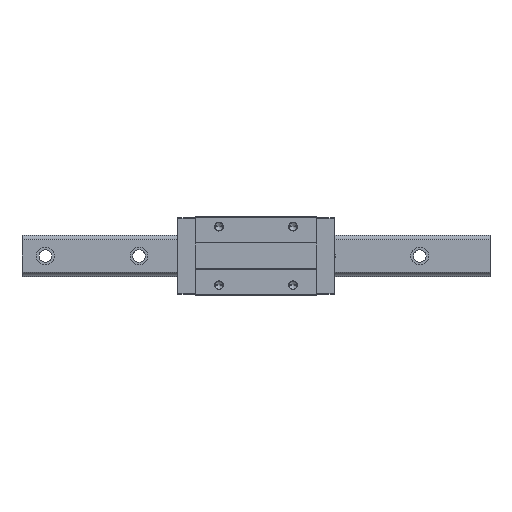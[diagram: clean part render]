
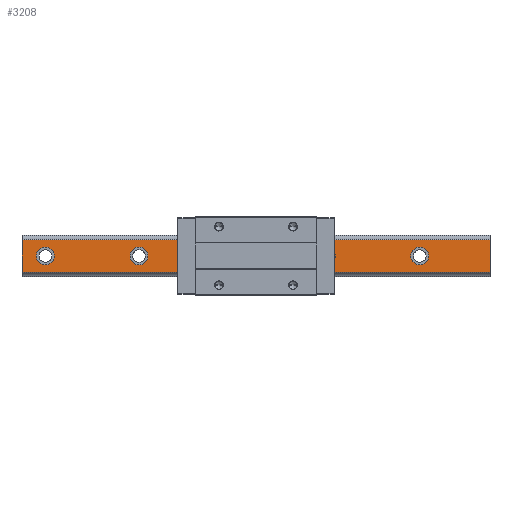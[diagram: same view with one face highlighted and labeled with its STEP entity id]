
A CAD part, top view. The second image highlights one B-rep face of the part: STEP entity #3208.
In plain terms, the highlighted planar face has unit normal (0, 0, 1).
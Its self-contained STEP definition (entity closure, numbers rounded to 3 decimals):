
#16 = EDGE_LOOP ( 'NONE', ( #3532, #728 ) ) ;
#84 = DIRECTION ( 'NONE',  ( 0., 0., 1. ) ) ;
#162 = EDGE_CURVE ( 'NONE', #3328, #2018, #4299, .T. ) ;
#231 = ORIENTED_EDGE ( 'NONE', *, *, #4105, .F. ) ;
#238 = FACE_BOUND ( 'NONE', #16, .T. ) ;
#277 = VERTEX_POINT ( 'NONE', #2434 ) ;
#300 = EDGE_LOOP ( 'NONE', ( #1199, #2833 ) ) ;
#338 = LINE ( 'NONE', #2370, #1735 ) ;
#390 = AXIS2_PLACEMENT_3D ( 'NONE', #1408, #3535, #3938 ) ;
#399 = CARTESIAN_POINT ( 'NONE',  ( -150., 0., 44. ) ) ;
#445 = ORIENTED_EDGE ( 'NONE', *, *, #516, .F. ) ;
#516 = EDGE_CURVE ( 'NONE', #4444, #4060, #4045, .T. ) ;
#574 = EDGE_CURVE ( 'NONE', #5351, #2188, #4226, .T. ) ;
#632 = CIRCLE ( 'NONE', #4424, 11.5 ) ;
#652 = EDGE_CURVE ( 'NONE', #277, #2145, #1236, .T. ) ;
#654 = FACE_BOUND ( 'NONE', #300, .T. ) ;
#677 = DIRECTION ( 'NONE',  ( 0., 0., 1. ) ) ;
#716 = FACE_BOUND ( 'NONE', #3212, .T. ) ;
#719 = DIRECTION ( 'NONE',  ( 0., 0., 1. ) ) ;
#728 = ORIENTED_EDGE ( 'NONE', *, *, #4609, .F. ) ;
#774 = ORIENTED_EDGE ( 'NONE', *, *, #574, .F. ) ;
#785 = VERTEX_POINT ( 'NONE', #3102 ) ;
#789 = VERTEX_POINT ( 'NONE', #2246 ) ;
#829 = EDGE_CURVE ( 'NONE', #3234, #3939, #1547, .T. ) ;
#874 = EDGE_LOOP ( 'NONE', ( #445, #3940 ) ) ;
#887 = DIRECTION ( 'NONE',  ( 1., 0., 0. ) ) ;
#982 = EDGE_CURVE ( 'NONE', #3554, #1455, #3919, .T. ) ;
#1114 = AXIS2_PLACEMENT_3D ( 'NONE', #3240, #4467, #5227 ) ;
#1155 = CARTESIAN_POINT ( 'NONE',  ( -41.5, 0., 44. ) ) ;
#1197 = DIRECTION ( 'NONE',  ( 0., 0., 1. ) ) ;
#1199 = ORIENTED_EDGE ( 'NONE', *, *, #829, .F. ) ;
#1234 = LINE ( 'NONE', #4249, #4846 ) ;
#1236 = CIRCLE ( 'NONE', #2127, 11.5 ) ;
#1263 = DIRECTION ( 'NONE',  ( 0., 0., 1. ) ) ;
#1348 = CIRCLE ( 'NONE', #1794, 11.5 ) ;
#1369 = DIRECTION ( 'NONE',  ( 0., 0., 1. ) ) ;
#1408 = CARTESIAN_POINT ( 'NONE',  ( 210., 0., 44. ) ) ;
#1455 = VERTEX_POINT ( 'NONE', #1155 ) ;
#1463 = CARTESIAN_POINT ( 'NONE',  ( 300., -20.894, 44. ) ) ;
#1468 = EDGE_CURVE ( 'NONE', #2018, #3328, #2016, .T. ) ;
#1547 = CIRCLE ( 'NONE', #390, 11.5 ) ;
#1582 = CARTESIAN_POINT ( 'NONE',  ( 221.5, 0., 44. ) ) ;
#1672 = AXIS2_PLACEMENT_3D ( 'NONE', #3145, #1897, #4806 ) ;
#1735 = VECTOR ( 'NONE', #3689, 1000. ) ;
#1794 = AXIS2_PLACEMENT_3D ( 'NONE', #2077, #1263, #4641 ) ;
#1860 = ORIENTED_EDGE ( 'NONE', *, *, #4295, .T. ) ;
#1890 = AXIS2_PLACEMENT_3D ( 'NONE', #3461, #2653, #4307 ) ;
#1894 = DIRECTION ( 'NONE',  ( 1., 0., 0. ) ) ;
#1897 = DIRECTION ( 'NONE',  ( 0., 0., 1. ) ) ;
#1942 = AXIS2_PLACEMENT_3D ( 'NONE', #2958, #84, #887 ) ;
#1946 = FACE_OUTER_BOUND ( 'NONE', #3791, .T. ) ;
#1951 = ORIENTED_EDGE ( 'NONE', *, *, #3783, .F. ) ;
#2016 = CIRCLE ( 'NONE', #3243, 11.5 ) ;
#2018 = VERTEX_POINT ( 'NONE', #3815 ) ;
#2061 = DIRECTION ( 'NONE',  ( 1., 0., 0. ) ) ;
#2077 = CARTESIAN_POINT ( 'NONE',  ( -30., 0., 44. ) ) ;
#2127 = AXIS2_PLACEMENT_3D ( 'NONE', #399, #719, #4880 ) ;
#2145 = VERTEX_POINT ( 'NONE', #5149 ) ;
#2179 = DIRECTION ( 'NONE',  ( -1., 0., 0. ) ) ;
#2188 = VERTEX_POINT ( 'NONE', #3109 ) ;
#2246 = CARTESIAN_POINT ( 'NONE',  ( -300., 20.894, 44. ) ) ;
#2299 = DIRECTION ( 'NONE',  ( 1., 0., 0. ) ) ;
#2353 = CARTESIAN_POINT ( 'NONE',  ( -18.5, 0., 44. ) ) ;
#2360 = CARTESIAN_POINT ( 'NONE',  ( 101.5, 0., 44. ) ) ;
#2370 = CARTESIAN_POINT ( 'NONE',  ( -300., -20.894, 44. ) ) ;
#2434 = CARTESIAN_POINT ( 'NONE',  ( -138.5, 0., 44. ) ) ;
#2613 = ORIENTED_EDGE ( 'NONE', *, *, #4011, .T. ) ;
#2623 = CARTESIAN_POINT ( 'NONE',  ( 300., 20.894, 44. ) ) ;
#2653 = DIRECTION ( 'NONE',  ( 0., 0., 1. ) ) ;
#2808 = PLANE ( 'NONE',  #1114 ) ;
#2833 = ORIENTED_EDGE ( 'NONE', *, *, #4473, .F. ) ;
#2905 = CARTESIAN_POINT ( 'NONE',  ( 78.5, 0., 44. ) ) ;
#2958 = CARTESIAN_POINT ( 'NONE',  ( 90., 0., 44. ) ) ;
#2997 = CARTESIAN_POINT ( 'NONE',  ( -281.5, 0., 44. ) ) ;
#3069 = AXIS2_PLACEMENT_3D ( 'NONE', #5237, #1369, #1894 ) ;
#3093 = VECTOR ( 'NONE', #3566, 1000. ) ;
#3102 = CARTESIAN_POINT ( 'NONE',  ( -300., -20.894, 44. ) ) ;
#3109 = CARTESIAN_POINT ( 'NONE',  ( 300., -20.894, 44. ) ) ;
#3120 = VECTOR ( 'NONE', #5152, 1000. ) ;
#3145 = CARTESIAN_POINT ( 'NONE',  ( -270., 0., 44. ) ) ;
#3208 = ADVANCED_FACE ( 'NONE', ( #654, #5287, #238, #716, #4876, #1946 ), #2808, .F. ) ;
#3212 = EDGE_LOOP ( 'NONE', ( #3295, #1951 ) ) ;
#3215 = CARTESIAN_POINT ( 'NONE',  ( 300., 20.894, 44. ) ) ;
#3234 = VERTEX_POINT ( 'NONE', #1582 ) ;
#3240 = CARTESIAN_POINT ( 'NONE',  ( 300., -20.894, 44. ) ) ;
#3243 = AXIS2_PLACEMENT_3D ( 'NONE', #3338, #4568, #5331 ) ;
#3295 = ORIENTED_EDGE ( 'NONE', *, *, #652, .F. ) ;
#3328 = VERTEX_POINT ( 'NONE', #2997 ) ;
#3338 = CARTESIAN_POINT ( 'NONE',  ( -270., 0., 44. ) ) ;
#3461 = CARTESIAN_POINT ( 'NONE',  ( 90., 0., 44. ) ) ;
#3532 = ORIENTED_EDGE ( 'NONE', *, *, #982, .F. ) ;
#3535 = DIRECTION ( 'NONE',  ( 0., 0., 1. ) ) ;
#3554 = VERTEX_POINT ( 'NONE', #2353 ) ;
#3566 = DIRECTION ( 'NONE',  ( 0., -1., 0. ) ) ;
#3689 = DIRECTION ( 'NONE',  ( 0., -1., 0. ) ) ;
#3737 = CARTESIAN_POINT ( 'NONE',  ( 210., 0., 44. ) ) ;
#3777 = CIRCLE ( 'NONE', #3069, 11.5 ) ;
#3783 = EDGE_CURVE ( 'NONE', #2145, #277, #3777, .T. ) ;
#3791 = EDGE_LOOP ( 'NONE', ( #2613, #231, #774, #1860 ) ) ;
#3815 = CARTESIAN_POINT ( 'NONE',  ( -258.5, 0., 44. ) ) ;
#3919 = CIRCLE ( 'NONE', #4623, 11.5 ) ;
#3938 = DIRECTION ( 'NONE',  ( 1., 0., 0. ) ) ;
#3939 = VERTEX_POINT ( 'NONE', #5296 ) ;
#3940 = ORIENTED_EDGE ( 'NONE', *, *, #5206, .F. ) ;
#4011 = EDGE_CURVE ( 'NONE', #789, #785, #338, .T. ) ;
#4014 = EDGE_LOOP ( 'NONE', ( #4072, #4764 ) ) ;
#4045 = CIRCLE ( 'NONE', #1942, 11.5 ) ;
#4060 = VERTEX_POINT ( 'NONE', #2905 ) ;
#4072 = ORIENTED_EDGE ( 'NONE', *, *, #1468, .F. ) ;
#4105 = EDGE_CURVE ( 'NONE', #2188, #785, #1234, .T. ) ;
#4226 = LINE ( 'NONE', #1463, #3093 ) ;
#4249 = CARTESIAN_POINT ( 'NONE',  ( 300., -20.894, 44. ) ) ;
#4295 = EDGE_CURVE ( 'NONE', #5351, #789, #4799, .T. ) ;
#4299 = CIRCLE ( 'NONE', #1672, 11.5 ) ;
#4307 = DIRECTION ( 'NONE',  ( 1., 0., 0. ) ) ;
#4376 = CARTESIAN_POINT ( 'NONE',  ( -30., 0., 44. ) ) ;
#4424 = AXIS2_PLACEMENT_3D ( 'NONE', #3737, #1197, #2061 ) ;
#4444 = VERTEX_POINT ( 'NONE', #2360 ) ;
#4467 = DIRECTION ( 'NONE',  ( 0., 0., -1. ) ) ;
#4473 = EDGE_CURVE ( 'NONE', #3939, #3234, #632, .T. ) ;
#4568 = DIRECTION ( 'NONE',  ( 0., 0., 1. ) ) ;
#4609 = EDGE_CURVE ( 'NONE', #1455, #3554, #1348, .T. ) ;
#4623 = AXIS2_PLACEMENT_3D ( 'NONE', #4376, #677, #2299 ) ;
#4641 = DIRECTION ( 'NONE',  ( 1., 0., 0. ) ) ;
#4764 = ORIENTED_EDGE ( 'NONE', *, *, #162, .F. ) ;
#4787 = CIRCLE ( 'NONE', #1890, 11.5 ) ;
#4799 = LINE ( 'NONE', #2623, #3120 ) ;
#4806 = DIRECTION ( 'NONE',  ( 1., 0., 0. ) ) ;
#4846 = VECTOR ( 'NONE', #2179, 1000. ) ;
#4876 = FACE_BOUND ( 'NONE', #4014, .T. ) ;
#4880 = DIRECTION ( 'NONE',  ( 1., 0., 0. ) ) ;
#5149 = CARTESIAN_POINT ( 'NONE',  ( -161.5, 0., 44. ) ) ;
#5152 = DIRECTION ( 'NONE',  ( -1., 0., 0. ) ) ;
#5206 = EDGE_CURVE ( 'NONE', #4060, #4444, #4787, .T. ) ;
#5227 = DIRECTION ( 'NONE',  ( 0., 1., 0. ) ) ;
#5237 = CARTESIAN_POINT ( 'NONE',  ( -150., 0., 44. ) ) ;
#5287 = FACE_BOUND ( 'NONE', #874, .T. ) ;
#5296 = CARTESIAN_POINT ( 'NONE',  ( 198.5, 0., 44. ) ) ;
#5331 = DIRECTION ( 'NONE',  ( 1., 0., 0. ) ) ;
#5351 = VERTEX_POINT ( 'NONE', #3215 ) ;
